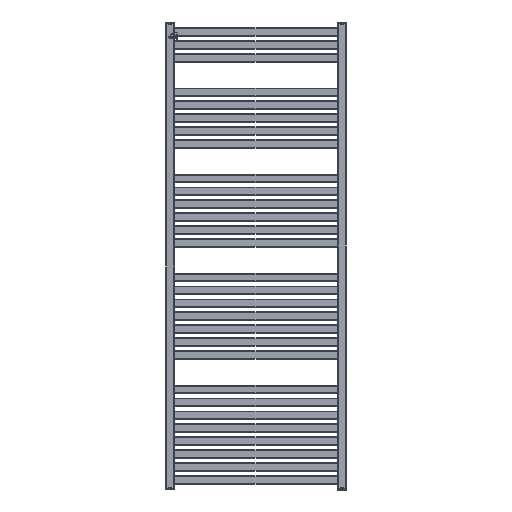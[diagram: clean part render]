
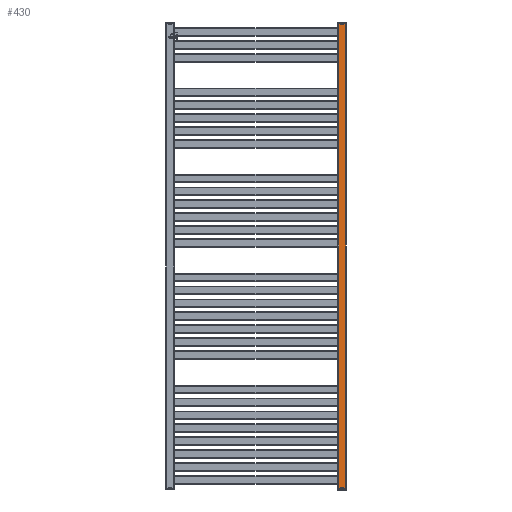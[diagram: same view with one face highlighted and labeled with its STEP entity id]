
A CAD part, front view. The second image highlights one B-rep face of the part: STEP entity #430.
In plain terms, the highlighted planar face has unit normal (0, -1, 0) as drawn and (-1, 0, 0) by its records, which use the part's own axes.
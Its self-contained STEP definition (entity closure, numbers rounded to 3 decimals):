
#430 = ADVANCED_FACE( '', ( #1122 ), #1123, .T. );
#1122 = FACE_OUTER_BOUND( '', #2168, .T. );
#1123 = PLANE( '', #2169 );
#2168 = EDGE_LOOP( '', ( #3425, #3426, #3427, #3428 ) );
#2169 = AXIS2_PLACEMENT_3D( '', #3429, #3430, #3431 );
#3425 = ORIENTED_EDGE( '', *, *, #6148, .T. );
#3426 = ORIENTED_EDGE( '', *, *, #6149, .T. );
#3427 = ORIENTED_EDGE( '', *, *, #6150, .F. );
#3428 = ORIENTED_EDGE( '', *, *, #6151, .T. );
#3429 = CARTESIAN_POINT( '', ( -15., 1626., 15. ) );
#3430 = DIRECTION( '', ( -1., 0., 0. ) );
#3431 = DIRECTION( '', ( 0., 0., 1. ) );
#6148 = EDGE_CURVE( '', #7422, #7423, #7424, .T. );
#6149 = EDGE_CURVE( '', #7423, #7425, #7426, .T. );
#6150 = EDGE_CURVE( '', #7427, #7425, #7428, .T. );
#6151 = EDGE_CURVE( '', #7427, #7422, #7429, .F. );
#7422 = VERTEX_POINT( '', #9218 );
#7423 = VERTEX_POINT( '', #9219 );
#7424 = LINE( '', #9220, #9221 );
#7425 = VERTEX_POINT( '', #9222 );
#7426 = LINE( '', #9223, #9224 );
#7427 = VERTEX_POINT( '', #9225 );
#7428 = LINE( '', #9226, #9227 );
#7429 = LINE( '', #9228, #9229 );
#9218 = CARTESIAN_POINT( '', ( -15., 1626., 12. ) );
#9219 = CARTESIAN_POINT( '', ( -15., 1626., -12. ) );
#9220 = CARTESIAN_POINT( '', ( -15., 1626., 15. ) );
#9221 = VECTOR( '', #11266, 1000. );
#9222 = CARTESIAN_POINT( '', ( -15., 0., -12. ) );
#9223 = CARTESIAN_POINT( '', ( -15., 1626., -12. ) );
#9224 = VECTOR( '', #11267, 1000. );
#9225 = CARTESIAN_POINT( '', ( -15., 0., 12. ) );
#9226 = CARTESIAN_POINT( '', ( -15., 0., 15. ) );
#9227 = VECTOR( '', #11268, 1000. );
#9228 = CARTESIAN_POINT( '', ( -15., 1626., 12. ) );
#9229 = VECTOR( '', #11269, 1000. );
#11266 = DIRECTION( '', ( 0., 0., -1. ) );
#11267 = DIRECTION( '', ( 0., -1., 0. ) );
#11268 = DIRECTION( '', ( 0., 0., -1. ) );
#11269 = DIRECTION( '', ( 0., -1., 0. ) );
